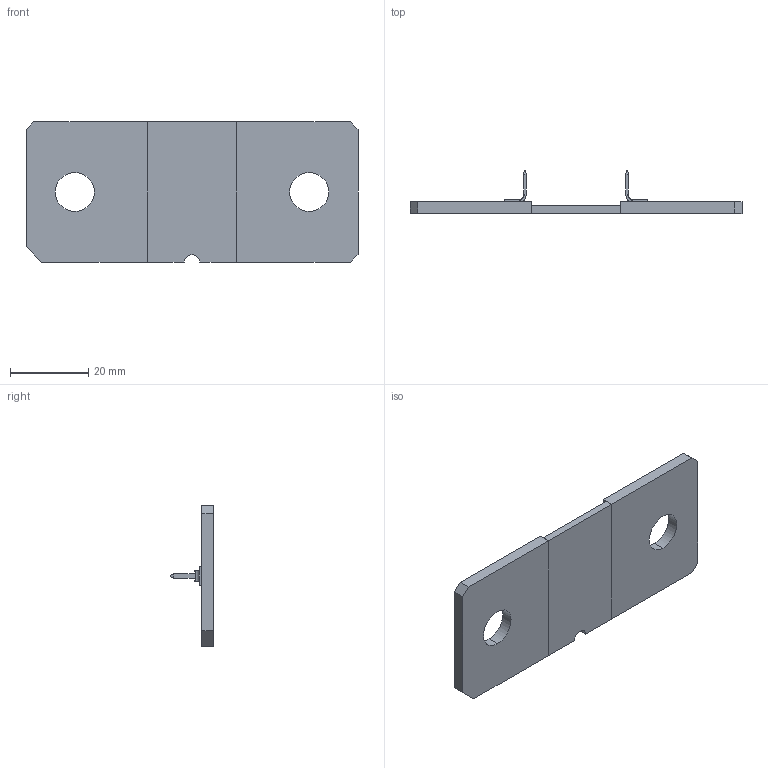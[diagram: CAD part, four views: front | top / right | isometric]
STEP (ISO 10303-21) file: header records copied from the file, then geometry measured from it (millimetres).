
FILE_DESCRIPTION (( 'STEP AP214' ), '1' );
FILE_NAME ('WSBS8536-20 125 microohm.STEP', '2021-03-09T15:42:31', ( '' ), ( '' ), 'SwSTEP 2.0', 'SolidWorks 2019', '' );
FILE_SCHEMA (( 'AUTOMOTIVE_DESIGN' ));
Length unit declared in the file: inch
Products named in the file (5): SHUNT TERMINAL - VISHAY; Element WSBS 8536 125 microohm; Left Terminal WSBS 8536 125 microohm; WSBS8536-20 125 microohm; Right Terminal WSBS 8536 125 microohm
Assembly tree (5 placements, depth 2):
  WSBS8536-20 125 microohm
    Element WSBS 8536 125 microohm
    Left Terminal WSBS 8536 125 microohm
    Right Terminal WSBS 8536 125 microohm
    SHUNT TERMINAL - VISHAY  x2
Bounding box: 84.99 x 10.99 x 35.99 mm (x, y, z)
Volume: 7849.5 mm3; surface area: 7153.3 mm2
Topology: 5 solids, 5 shells, 101 faces, 257 edges, 166 vertices
Faces by surface type: plane 67, cylinder 26, bspline 8
Entity records: 2261 total; most frequent: CARTESIAN_POINT 482, ORIENTED_EDGE 326, DIRECTION 317, EDGE_CURVE 163, VECTOR 115, LINE 115, VERTEX_POINT 106, AXIS2_PLACEMENT_3D 101
